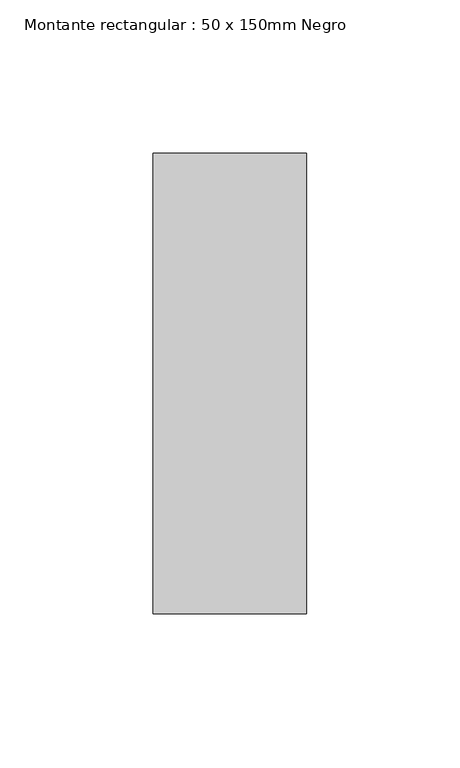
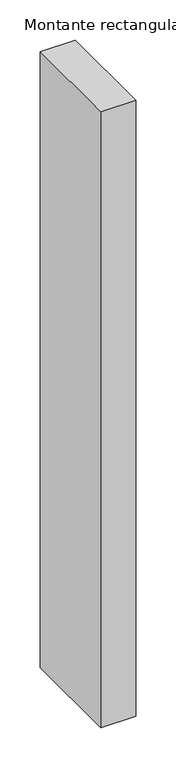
"""IFC4 building model written with IfcOpenShell, lengths in millimetres: member geometry, Montante rectangular : 50 x 150mm Negro."""

from ifc_helpers import new_model, si_unit, frame, origin, place, context, project, spatial, polyline, outline, extrude, source, transform, mapped, element, save


def montante_rectangular_50_x_150mm_negro_4f41d6b7(model_context):
    return source(origin(), model_context, "Body", "SweptSolid", [
        extrude(outline(polyline([(0.0, 75.0), (0.0, -75.0), (-50.0, -75.0), (-50.0, 75.0), (0.0, 75.0)])), frame((0.0, 0.0, -933.3333333), z_axis=(0.0, 0.0, 1.0), x_axis=(1.0, 0.0, 0.0)), (0.0, 0.0, 1.0), 933.3333333),
    ])


if __name__ == "__main__":
    model = new_model("IFC4")
    model_context = context("Model", 3, world=origin())
    ifc_project = project(units=[si_unit("LENGTHUNIT", "METRE", prefix="MILLI")], contexts=[model_context])
    site = spatial("IfcSite", under=ifc_project)
    building = spatial("IfcBuilding", under=site)
    placement = place(None, origin())
    montante_rectangular_50_x_150mm_negro_shape = montante_rectangular_50_x_150mm_negro_4f41d6b7(model_context)
    element("IfcMember", 1, ObjectType="Montante rectangular : 50 x 150mm Negro", at=placement, inside=building, context=model_context, shape_type="MappedRepresentation", body=[
        mapped(montante_rectangular_50_x_150mm_negro_shape, transform((0.0, 0.0, 0.0), x_axis=(1.0, 0.0, 0.0), y_axis=(0.0, 1.0, 0.0), z_axis=(0.0, 0.0, 1.0))),
    ])
    save(model, "model.ifc")
